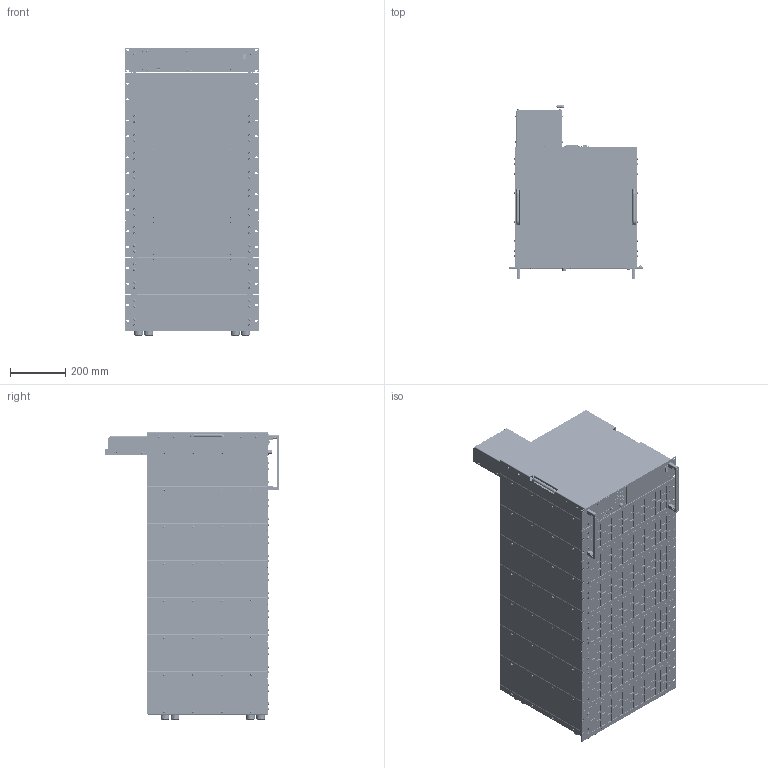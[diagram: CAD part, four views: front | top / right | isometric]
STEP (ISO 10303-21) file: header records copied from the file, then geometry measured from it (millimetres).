
FILE_DESCRIPTION(('STEP AP214'),'1');
FILE_NAME('PLI_M43_19Z_23HE_FKS25_10_SM10_BRB_3D_01.step','2019-03-12T09:20:31',(' '),(' '),'Spatial InterOp 3D',' ',' ');
FILE_SCHEMA(('AUTOMOTIVE_DESIGN { 1 0 10303 214 1 1 1 1 }'));
Length unit declared in the file: millimetre
Products named in the file (1): 1
Bounding box: 482.6 x 631.75 x 1039.48 mm (x, y, z)
Volume: 67322850.5 mm3; surface area: 10911065.5 mm2
Topology: 444 solids, 3128 shells, 31375 faces, 89754 edges, 61697 vertices
Faces by surface type: plane 17214, cone 8172, cylinder 5111, sphere 490, torus 360, bspline 26, extrusion 2
Entity records: 1310908 total; most frequent: CARTESIAN_POINT 191585, DIRECTION 188275, ORIENTED_EDGE 160940, EDGE_CURVE 88810, AXIS2_PLACEMENT_3D 64770, VERTEX_POINT 60544, VECTOR 58735, LINE 58733
